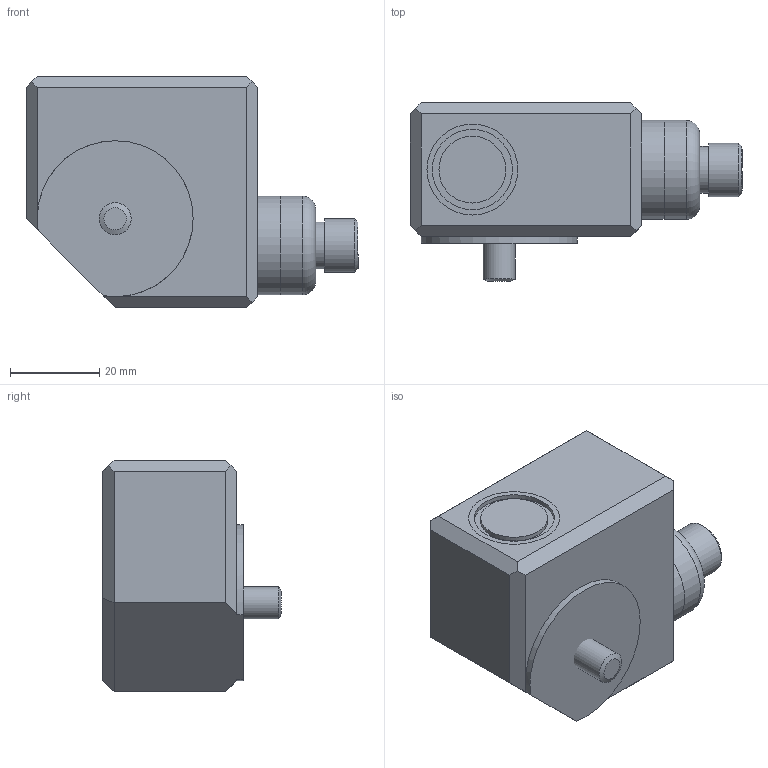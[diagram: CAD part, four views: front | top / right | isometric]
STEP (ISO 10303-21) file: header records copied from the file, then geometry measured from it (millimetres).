
FILE_DESCRIPTION(/* description */ (''),/* implementation_level */ '2;1');
FILE_NAME(/* name */ 'Z:\Engineering\Drawings\3D Library\Assemblies\Website\420 Triaxial Velocity\HS-473XXX6606.stp',/* time_stamp */ '2023-05-09T21:39:15+01:00',/* author */ ('Ricardo.Peneda'),/* organization */ (''),/* preprocessor_version */ 'ST-DEVELOPER v18.1',/* originating_system */ 'Autodesk Inventor 2021',/* authorisation */ '');
FILE_SCHEMA (('AUTOMOTIVE_DESIGN { 1 0 10303 214 3 1 1 }'));
Length unit declared in the file: inch
Products named in the file (1): HS-473XXX6606_Shrinkwrap_1
Bounding box: 74.5 x 40 x 52 mm (x, y, z)
Volume: 54887.5 mm3; surface area: 21452.7 mm2
Topology: 5 solids, 5 shells, 80 faces, 198 edges, 145 vertices
Faces by surface type: plane 53, cylinder 23, cone 3, torus 1
Full cylindrical faces by diameter (mm): 4.5 x1, 6 x1, 7.2 x1, 9.4 x1, 10 x1, 10.5 x1, 12 x1, 15 x2, 18 x3, 19.95 x1, 20 x3, 20.4 x4, 22.2 x2
Entity records: 2601 total; most frequent: DIRECTION 460, CARTESIAN_POINT 424, ORIENTED_EDGE 396, EDGE_CURVE 198, AXIS2_PLACEMENT_3D 181, VERTEX_POINT 145, EDGE_LOOP 101, CIRCLE 100
